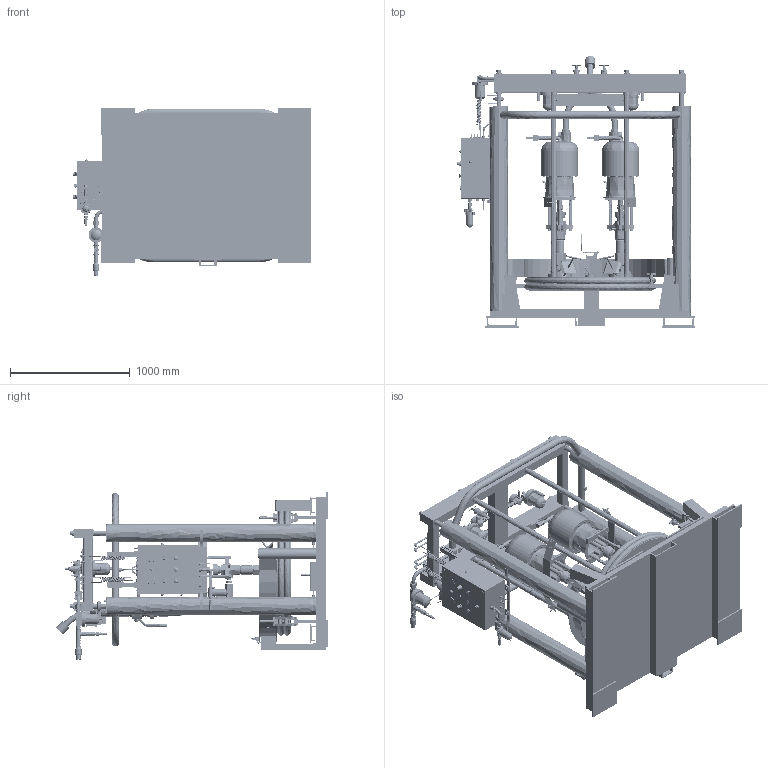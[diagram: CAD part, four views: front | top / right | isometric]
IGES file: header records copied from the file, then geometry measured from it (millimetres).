
Start section:  PTC IGES file: c58607-en-u.igs
Global section: file name: c58607-en-u.igs; native system: Creo Parametric by PTC Inc.; preprocessor: 2019030; author: qusrh3; organization: Unknown; date: 20200101.120320; units: inch
Bounding box: 1989.45 x 2266.23 x 1401.27 mm (x, y, z)
Surface area: 31649204.9 mm2 (no closed solid volume)
Topology: 0 solids, 0 shells, 8413 faces, 37946 edges, 37885 vertices
Faces by surface type: revolution 4380, bspline 4013, extrusion 20
